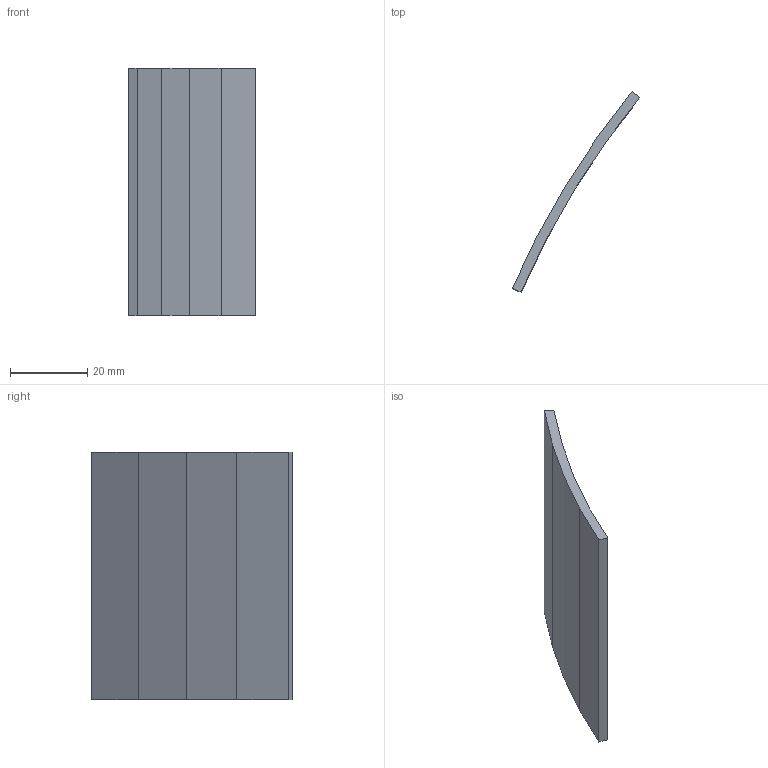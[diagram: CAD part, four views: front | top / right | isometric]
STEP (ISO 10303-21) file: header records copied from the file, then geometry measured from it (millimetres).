
FILE_DESCRIPTION(('Open CASCADE Model'),'2;1');
FILE_NAME('Open CASCADE Shape Model','2026-09-19T23:46:39',('Author'),( 'Open CASCADE'),'Open CASCADE STEP processor 7.9','Open CASCADE 7.9' ,'Unknown');
FILE_SCHEMA(('AUTOMOTIVE_DESIGN { 1 0 10303 214 1 1 1 1 }'));
Length unit declared in the file: millimetre
Products named in the file (1): Open CASCADE STEP translator 7.9 29
Bounding box: 32.98 x 51.83 x 64 mm (x, y, z)
Volume: 9498.4 mm3; surface area: 8223.5 mm2
Topology: 1 solids, 1 shells, 12 faces, 30 edges, 20 vertices
Faces by surface type: plane 12
Entity records: 724 total; most frequent: CARTESIAN_POINT 153, DIRECTION 86, ORIENTED_EDGE 60, LINE 60, VECTOR 60, PCURVE 60, DEFINITIONAL_REPRESENTATION 60, EDGE_CURVE 30
